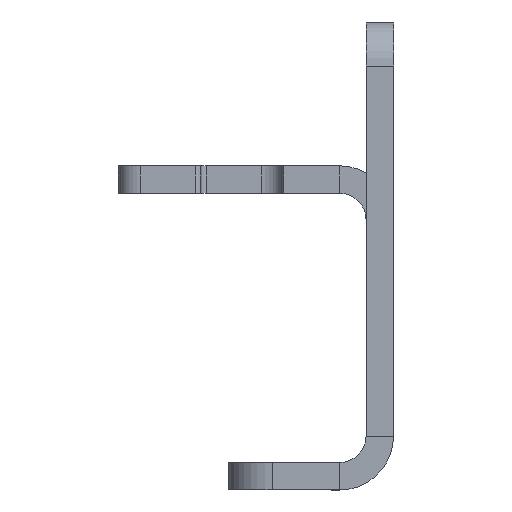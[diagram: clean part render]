
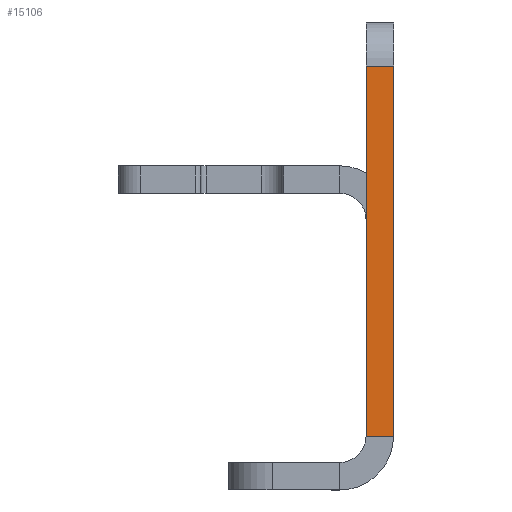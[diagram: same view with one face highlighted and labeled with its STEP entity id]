
A CAD part, left-side view. The second image highlights one B-rep face of the part: STEP entity #15106.
In plain terms, the highlighted planar face has unit normal (-1, 0, 0).
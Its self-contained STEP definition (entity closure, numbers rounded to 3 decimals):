
#252 = VECTOR ( 'NONE', #16909, 1000. ) ;
#2011 = VERTEX_POINT ( 'NONE', #10818 ) ;
#2015 = VERTEX_POINT ( 'NONE', #10814 ) ;
#2894 = DIRECTION ( 'NONE',  ( 0., 0., 1. ) ) ;
#2895 = DIRECTION ( 'NONE',  ( -1., 0., 0. ) ) ;
#2896 = CARTESIAN_POINT ( 'NONE',  ( -736.25, -2.5, 4. ) ) ;
#2897 = PLANE ( 'NONE',  #13130 ) ;
#4571 = CARTESIAN_POINT ( 'NONE',  ( -736.25, -2.5, 49.1 ) ) ;
#4572 = CARTESIAN_POINT ( 'NONE',  ( -736.25, -2.5, 15.47 ) ) ;
#5317 = EDGE_CURVE ( 'NONE', #2011, #2015, #16911, .T. ) ;
#6118 = DIRECTION ( 'NONE',  ( 0., 1., 0. ) ) ;
#6137 = CARTESIAN_POINT ( 'NONE',  ( -736.25, -2.5, 49.1 ) ) ;
#6158 = LINE ( 'NONE', #6137, #17845 ) ;
#6177 = DIRECTION ( 'NONE',  ( 0., 1., 0. ) ) ;
#6198 = CARTESIAN_POINT ( 'NONE',  ( -736.25, -2.5, 15.47 ) ) ;
#6208 = LINE ( 'NONE', #6198, #17854 ) ;
#6438 = LINE ( 'NONE', #6568, #17846 ) ;
#6568 = CARTESIAN_POINT ( 'NONE',  ( -736.25, -2.5, 4. ) ) ;
#6718 = DIRECTION ( 'NONE',  ( 0., 0., 1. ) ) ;
#7638 = EDGE_LOOP ( 'NONE', ( #8562, #8564, #8563, #8565 ) ) ;
#8562 = ORIENTED_EDGE ( 'NONE', *, *, #11970, .F. ) ;
#8563 = ORIENTED_EDGE ( 'NONE', *, *, #11972, .T. ) ;
#8564 = ORIENTED_EDGE ( 'NONE', *, *, #11986, .T. ) ;
#8565 = ORIENTED_EDGE ( 'NONE', *, *, #5317, .F. ) ;
#10814 = CARTESIAN_POINT ( 'NONE',  ( -736.25, 0., 49.1 ) ) ;
#10818 = CARTESIAN_POINT ( 'NONE',  ( -736.25, 0., 15.47 ) ) ;
#11970 = EDGE_CURVE ( 'NONE', #14018, #2011, #6208, .T. ) ;
#11972 = EDGE_CURVE ( 'NONE', #14019, #2015, #6158, .T. ) ;
#11986 = EDGE_CURVE ( 'NONE', #14018, #14019, #6438, .T. ) ;
#13117 = FACE_OUTER_BOUND ( 'NONE', #7638, .T. ) ;
#13130 = AXIS2_PLACEMENT_3D ( 'NONE', #2896, #2895, #2894 ) ;
#14018 = VERTEX_POINT ( 'NONE', #4572 ) ;
#14019 = VERTEX_POINT ( 'NONE', #4571 ) ;
#15106 = ADVANCED_FACE ( 'NONE', ( #13117 ), #2897, .T. ) ;
#16909 = DIRECTION ( 'NONE',  ( 0., 0., 1. ) ) ;
#16910 = CARTESIAN_POINT ( 'NONE',  ( -736.25, 0., 4. ) ) ;
#16911 = LINE ( 'NONE', #16910, #252 ) ;
#17845 = VECTOR ( 'NONE', #6118, 1000. ) ;
#17846 = VECTOR ( 'NONE', #6718, 1000. ) ;
#17854 = VECTOR ( 'NONE', #6177, 1000. ) ;
